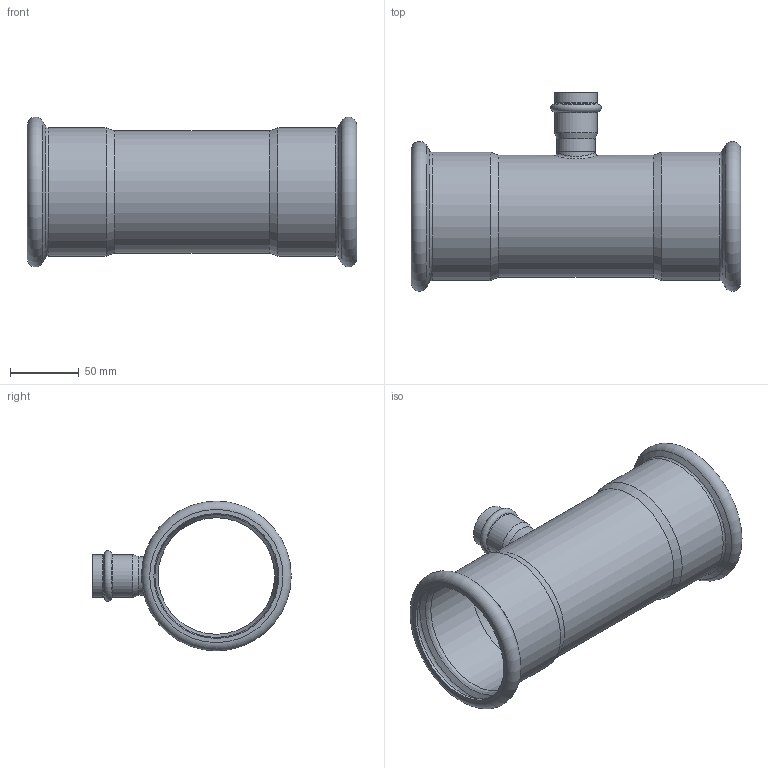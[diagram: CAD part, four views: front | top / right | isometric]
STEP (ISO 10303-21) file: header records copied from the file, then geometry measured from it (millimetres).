
FILE_DESCRIPTION((''),'2;1');
FILE_NAME('G:\Nirosan-Schmiedefeld\Technics\CAD\Bauteile VA\089\69130892889(2).stp','2011-10-28T10:15:08',('herberg'),(''),'Autodesk Inventor 2009','Autodesk Inventor 2009','');
FILE_SCHEMA(('AUTOMOTIVE_DESIGN { 1 0 10303 214 1 1 1 1 }'));
Length unit declared in the file: millimetre
Products named in the file (3): 69130892889(2); LM_69130892889(1); HM_6924328(1)
Assembly tree (2 placements, depth 2):
  69130892889(2)
    LM_69130892889(1)
    HM_6924328(1)
Bounding box: 240 x 144.55 x 109.1 mm (x, y, z)
Volume: 153415.8 mm3; surface area: 157112.9 mm2
Topology: 2 solids, 2 shells, 51 faces, 105 edges, 60 vertices
Faces by surface type: cylinder 16, cone 12, bspline 10, plane 7, torus 6
Full cylindrical faces by diameter (mm): 24 x1, 25 x1, 28 x2, 28.2 x2, 31.2 x2, 84.9 x1, 88.9 x1, 89.5 x2, 91 x2, 93.5 x2
Entity records: 2943 total; most frequent: CARTESIAN_POINT 2011, DIRECTION 190, ORIENTED_EDGE 108, EDGE_LOOP 102, AXIS2_PLACEMENT_3D 95, EDGE_CURVE 54, VERTEX_POINT 52, FACE_OUTER_BOUND 51
